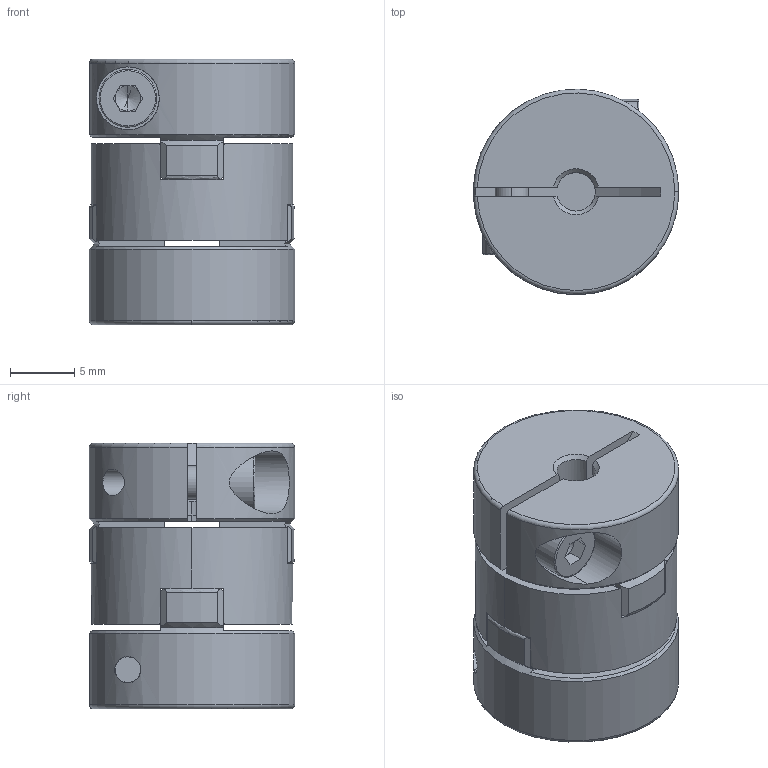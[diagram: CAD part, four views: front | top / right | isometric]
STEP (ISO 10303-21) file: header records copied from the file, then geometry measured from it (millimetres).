
FILE_DESCRIPTION (( 'STEP AP203' ), '1' );
FILE_NAME ('SOHM-16C-3X6_203.STEP', '2013-01-24T01:14:43', ( '' ), ( '' ), 'SwSTEP 2.0', 'SolidWorks 2012', '' );
FILE_SCHEMA (( 'CONFIG_CONTROL_DESIGN' ));
Length unit declared in the file: millimetre
Products named in the file (1): SOHM-16C-3X6_203
Bounding box: 16 x 16 x 20.7 mm (x, y, z)
Volume: 3349.1 mm3; surface area: 2777.4 mm2
Topology: 1 solids, 1 shells, 193 faces, 536 edges, 333 vertices
Faces by surface type: plane 86, cylinder 60, torus 24, cone 23
Entity records: 6600 total; most frequent: CARTESIAN_POINT 1608, ORIENTED_EDGE 1064, DIRECTION 1011, EDGE_CURVE 532, AXIS2_PLACEMENT_3D 376, VERTEX_POINT 333, LINE 259, VECTOR 259
